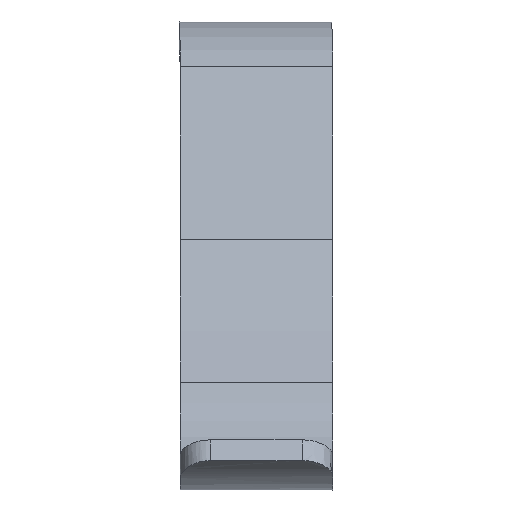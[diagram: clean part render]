
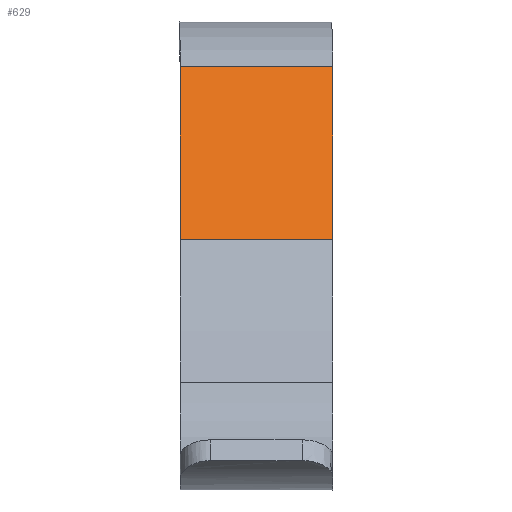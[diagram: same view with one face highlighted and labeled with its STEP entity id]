
A CAD part, left-side view. The second image highlights one B-rep face of the part: STEP entity #629.
In plain terms, the highlighted planar face has unit normal (-0.707, 0, 0.707).
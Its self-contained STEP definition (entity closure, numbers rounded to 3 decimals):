
#448=CARTESIAN_POINT('Vertex',(768.878,-655.37,383.923)) ;
#451=CARTESIAN_POINT('Line Origine',(768.875,-662.811,383.923)) ;
#455=CARTESIAN_POINT('Vertex',(768.873,-670.37,383.923)) ;
#599=CARTESIAN_POINT('Axis2P3D Location',(737.528,-662.859,352.571)) ;
#604=CARTESIAN_POINT('Line Origine',(760.37,-655.367,375.414)) ;
#608=CARTESIAN_POINT('Vertex',(751.861,-655.364,366.904)) ;
#611=CARTESIAN_POINT('Line Origine',(751.859,-662.864,366.904)) ;
#615=CARTESIAN_POINT('Vertex',(751.856,-670.364,366.904)) ;
#618=CARTESIAN_POINT('Line Origine',(760.364,-670.367,375.414)) ;
#452=DIRECTION('Vector Direction',(0.,-1.,0.)) ;
#600=DIRECTION('Axis2P3D Direction',(-0.707,0.,0.707)) ;
#601=DIRECTION('Axis2P3D XDirection',(0.707,0.,0.707)) ;
#605=DIRECTION('Vector Direction',(0.707,0.,0.707)) ;
#612=DIRECTION('Vector Direction',(0.,1.,0.)) ;
#619=DIRECTION('Vector Direction',(0.707,0.,0.707)) ;
#602=AXIS2_PLACEMENT_3D('Plane Axis2P3D',#599,#600,#601) ;
#624=ORIENTED_EDGE('',*,*,#457,.T.) ;
#625=ORIENTED_EDGE('',*,*,#610,.F.) ;
#626=ORIENTED_EDGE('',*,*,#617,.F.) ;
#627=ORIENTED_EDGE('',*,*,#622,.T.) ;
#453=VECTOR('Line Direction',#452,1.) ;
#606=VECTOR('Line Direction',#605,1.) ;
#613=VECTOR('Line Direction',#612,1.) ;
#620=VECTOR('Line Direction',#619,1.) ;
#629=ADVANCED_FACE('10-24AllCATPart.1\\\X2\51E04F554F53\X0\.202',(#628),#603,.T.) ;
#457=EDGE_CURVE('',#456,#449,#454,.F.) ;
#610=EDGE_CURVE('',#609,#449,#607,.T.) ;
#617=EDGE_CURVE('',#616,#609,#614,.T.) ;
#622=EDGE_CURVE('',#616,#456,#621,.T.) ;
#623=EDGE_LOOP('',(#624,#625,#626,#627)) ;
#628=FACE_OUTER_BOUND('',#623,.T.) ;
#454=LINE('Line',#451,#453) ;
#607=LINE('Line',#604,#606) ;
#614=LINE('Line',#611,#613) ;
#621=LINE('Line',#618,#620) ;
#603=PLANE('Plane',#602) ;
#449=VERTEX_POINT('',#448) ;
#456=VERTEX_POINT('',#455) ;
#609=VERTEX_POINT('',#608) ;
#616=VERTEX_POINT('',#615) ;
